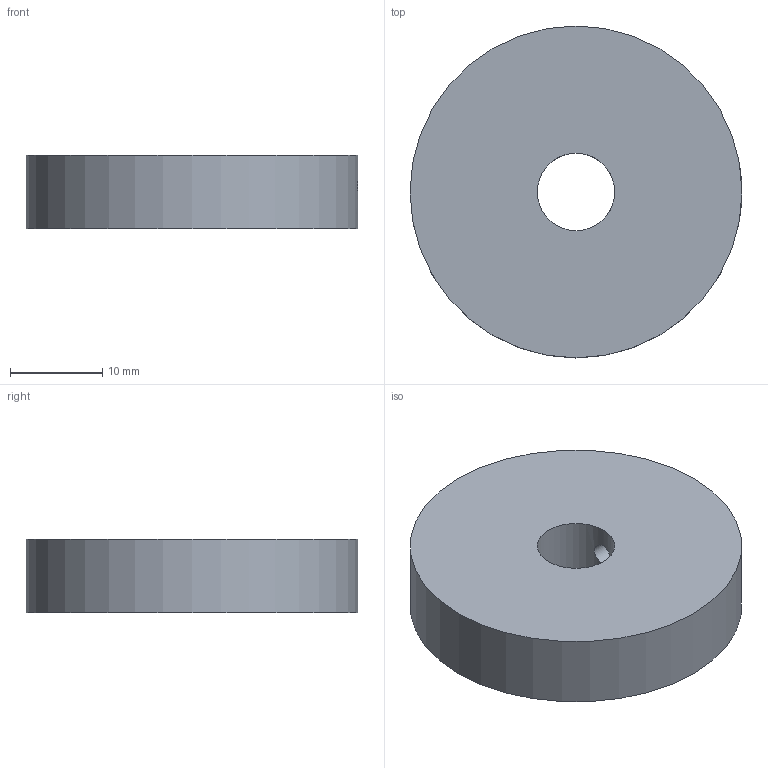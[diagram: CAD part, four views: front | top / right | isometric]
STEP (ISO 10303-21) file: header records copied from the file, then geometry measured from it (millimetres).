
FILE_DESCRIPTION(('Open CASCADE Model'),'2;1');
FILE_NAME('Open CASCADE Shape Model','2026-10-04T02:31:41',('Author'),( 'Open CASCADE'),'Open CASCADE STEP processor 8.0','Open CASCADE 8.0' ,'Unknown');
FILE_SCHEMA(('AUTOMOTIVE_DESIGN { 1 0 10303 214 1 1 1 1 }'));
Length unit declared in the file: millimetre
Products named in the file (1): Open CASCADE STEP translator 8.0 281
Bounding box: 36 x 36 x 8 mm (x, y, z)
Volume: 7030.9 mm3; surface area: 4249.7 mm2
Topology: 1 solids, 1 shells, 33 faces, 75 edges, 49 vertices
Faces by surface type: cylinder 21, plane 12
Full cylindrical faces by diameter (mm): 1.6 x16, 2.4 x1, 8.4 x1, 36 x1
Entity records: 2969 total; most frequent: CARTESIAN_POINT 1387, DIRECTION 290, ORIENTED_EDGE 150, PCURVE 150, DEFINITIONAL_REPRESENTATION 150, LINE 108, VECTOR 108, CIRCLE 76
